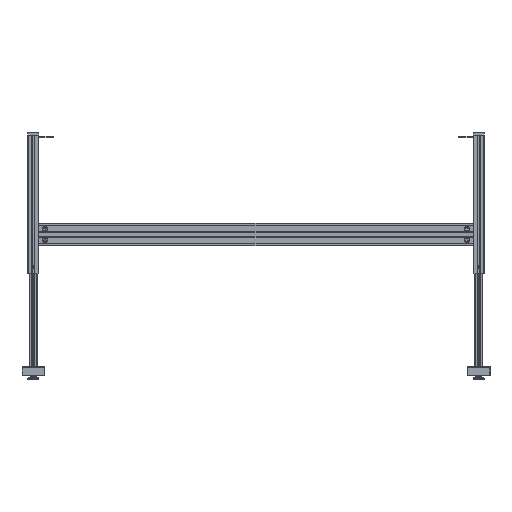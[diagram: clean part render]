
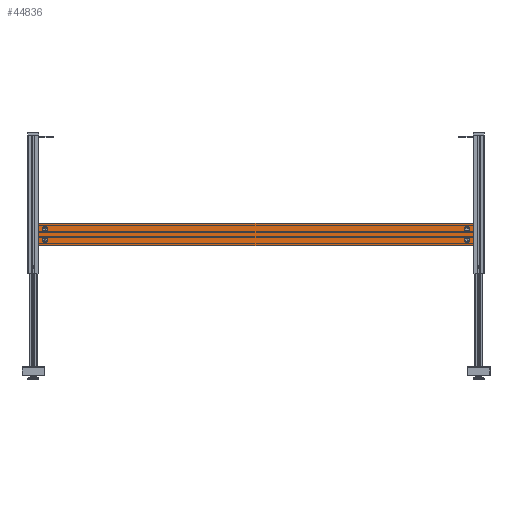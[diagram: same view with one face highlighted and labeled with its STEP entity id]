
A CAD part, left-side view. The second image highlights one B-rep face of the part: STEP entity #44836.
In plain terms, the highlighted planar face has unit normal (-1, 0, 0) as drawn and (1, 0, 0) by its records, which use the part's own axes.
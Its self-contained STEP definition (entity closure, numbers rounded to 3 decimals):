
#2977=CIRCLE('',#57227,9.);
#2978=CIRCLE('',#57228,9.);
#2979=CIRCLE('',#57229,9.);
#2980=CIRCLE('',#57230,9.);
#14761=ORIENTED_EDGE('',*,*,#22016,.T.);
#14762=ORIENTED_EDGE('',*,*,#22017,.T.);
#14763=ORIENTED_EDGE('',*,*,#22018,.T.);
#14764=ORIENTED_EDGE('',*,*,#22019,.T.);
#14765=ORIENTED_EDGE('',*,*,#22020,.T.);
#14766=ORIENTED_EDGE('',*,*,#22021,.F.);
#14767=ORIENTED_EDGE('',*,*,#22022,.T.);
#14768=ORIENTED_EDGE('',*,*,#22023,.T.);
#22016=EDGE_CURVE('',#26649,#26649,#2977,.T.);
#22017=EDGE_CURVE('',#26650,#26650,#2978,.T.);
#22018=EDGE_CURVE('',#26651,#26652,#31210,.T.);
#22019=EDGE_CURVE('',#26652,#26653,#31211,.T.);
#22020=EDGE_CURVE('',#26653,#26654,#31212,.T.);
#22021=EDGE_CURVE('',#26651,#26654,#31213,.T.);
#22022=EDGE_CURVE('',#26655,#26655,#2979,.T.);
#22023=EDGE_CURVE('',#26656,#26656,#2980,.T.);
#26649=VERTEX_POINT('',#82827);
#26650=VERTEX_POINT('',#82829);
#26651=VERTEX_POINT('',#82831);
#26652=VERTEX_POINT('',#82832);
#26653=VERTEX_POINT('',#82834);
#26654=VERTEX_POINT('',#82836);
#26655=VERTEX_POINT('',#82839);
#26656=VERTEX_POINT('',#82841);
#31210=LINE('',#82830,#35691);
#31211=LINE('',#82833,#35692);
#31212=LINE('',#82835,#35693);
#31213=LINE('',#82837,#35694);
#35691=VECTOR('',#68991,1000.);
#35692=VECTOR('',#68992,1000.);
#35693=VECTOR('',#68993,1000.);
#35694=VECTOR('',#68994,1000.);
#38265=EDGE_LOOP('',(#14761));
#38266=EDGE_LOOP('',(#14762));
#38267=EDGE_LOOP('',(#14763,#14764,#14765,#14766));
#38268=EDGE_LOOP('',(#14767));
#38269=EDGE_LOOP('',(#14768));
#40878=FACE_BOUND('',#38265,.T.);
#40879=FACE_BOUND('',#38266,.T.);
#40880=FACE_BOUND('',#38267,.T.);
#40881=FACE_BOUND('',#38268,.T.);
#40882=FACE_BOUND('',#38269,.T.);
#42634=PLANE('',#57226);
#44836=ADVANCED_FACE('',(#40878,#40879,#40880,#40881,#40882),#42634,.T.);
#57226=AXIS2_PLACEMENT_3D('',#82825,#68985,#68986);
#57227=AXIS2_PLACEMENT_3D('',#82826,#68987,#68988);
#57228=AXIS2_PLACEMENT_3D('',#82828,#68989,#68990);
#57229=AXIS2_PLACEMENT_3D('',#82838,#68995,#68996);
#57230=AXIS2_PLACEMENT_3D('',#82840,#68997,#68998);
#68985=DIRECTION('',(1.,0.,0.));
#68986=DIRECTION('',(0.,1.,0.));
#68987=DIRECTION('',(-1.,0.,0.));
#68988=DIRECTION('',(0.,0.,1.));
#68989=DIRECTION('',(-1.,0.,0.));
#68990=DIRECTION('',(0.,0.,1.));
#68991=DIRECTION('',(0.,1.,0.));
#68992=DIRECTION('',(0.,0.,1.));
#68993=DIRECTION('',(0.,-1.,0.));
#68994=DIRECTION('',(0.,0.,1.));
#68995=DIRECTION('',(-1.,0.,0.));
#68996=DIRECTION('',(0.,0.,1.));
#68997=DIRECTION('',(-1.,0.,0.));
#68998=DIRECTION('',(0.,0.,1.));
#82825=CARTESIAN_POINT('',(40.,80.,-1.));
#82826=CARTESIAN_POINT('',(40.,60.,1527.5));
#82827=CARTESIAN_POINT('',(40.,60.,1536.5));
#82828=CARTESIAN_POINT('',(40.,60.,22.5));
#82829=CARTESIAN_POINT('',(40.,60.,31.5));
#82830=CARTESIAN_POINT('',(40.,80.,0.));
#82831=CARTESIAN_POINT('',(40.,0.,0.));
#82832=CARTESIAN_POINT('',(40.,80.,0.));
#82833=CARTESIAN_POINT('',(40.,80.,-1.));
#82834=CARTESIAN_POINT('',(40.,80.,1550.));
#82835=CARTESIAN_POINT('',(40.,40.,1550.));
#82836=CARTESIAN_POINT('',(40.,0.,1550.));
#82837=CARTESIAN_POINT('',(40.,0.,-1.));
#82838=CARTESIAN_POINT('',(40.,20.,1527.5));
#82839=CARTESIAN_POINT('',(40.,20.,1536.5));
#82840=CARTESIAN_POINT('',(40.,20.,22.5));
#82841=CARTESIAN_POINT('',(40.,20.,31.5));
